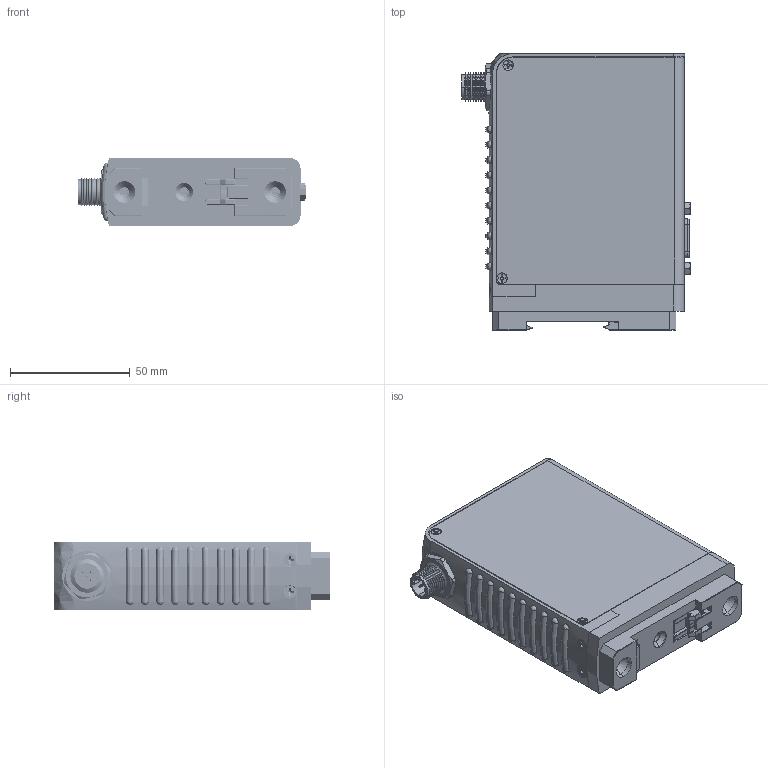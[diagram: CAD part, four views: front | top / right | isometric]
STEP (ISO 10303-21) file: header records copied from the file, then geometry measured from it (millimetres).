
FILE_DESCRIPTION (( 'STEP AP203' ), '1' );
FILE_NAME ('GF120XHT-DX-REMOTE_ELECTRONICS.STEP', '2023-12-11T19:26:55', ( '' ), ( '' ), 'SwSTEP 2.0', 'SolidWorks 2020', '' );
FILE_SCHEMA (( 'CONFIG_CONTROL_DESIGN' ));
Products named in the file (1): GF120XHT-DX-REMOTE_ELECTRONICS
Bounding box: 95.38 x 115.62 x 28.45 mm (x, y, z)
Surface area: 77339.5 mm2 (no closed solid volume)
Topology: 0 solids, 43 shells, 3360 faces, 9096 edges, 5954 vertices
Faces by surface type: plane 1554, cylinder 1006, bspline 493, cone 303, sphere 4
Entity records: 162616 total; most frequent: CARTESIAN_POINT 83347, ORIENTED_EDGE 18088, DIRECTION 13885, EDGE_CURVE 9046, VERTEX_POINT 5947, LINE 5107, VECTOR 5107, AXIS2_PLACEMENT_3D 4389
